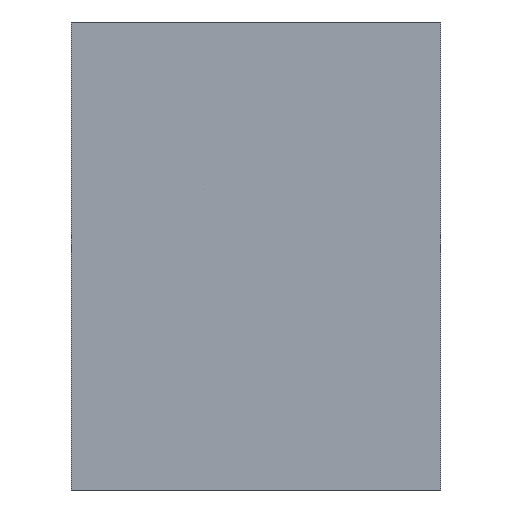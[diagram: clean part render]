
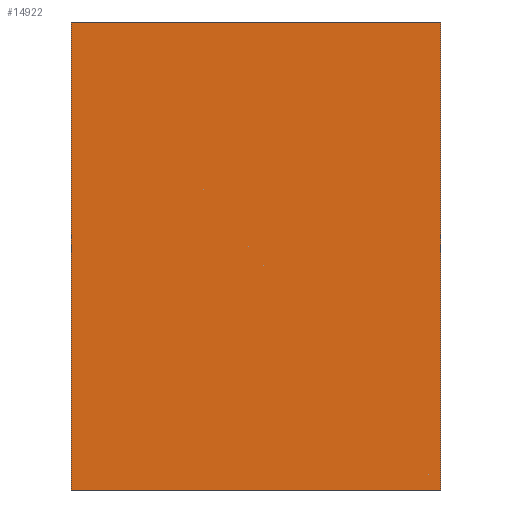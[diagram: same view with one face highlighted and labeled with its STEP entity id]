
A CAD part, front view. The second image highlights one B-rep face of the part: STEP entity #14922.
In plain terms, the highlighted planar face has unit normal (0, -1, 0).
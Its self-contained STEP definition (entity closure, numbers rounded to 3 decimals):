
#33 = PLANE('',#34);
#34 = AXIS2_PLACEMENT_3D('',#35,#36,#37);
#35 = CARTESIAN_POINT('',(37.5,12.089,0.));
#36 = DIRECTION('',(0.,0.,1.));
#37 = DIRECTION('',(1.,0.,0.));
#172 = VERTEX_POINT('',#173);
#173 = CARTESIAN_POINT('',(0.,0.,0.));
#187 = PLANE('',#188);
#188 = AXIS2_PLACEMENT_3D('',#189,#190,#191);
#189 = CARTESIAN_POINT('',(0.,25.,0.));
#190 = DIRECTION('',(1.,0.,0.));
#191 = DIRECTION('',(0.,-1.,0.));
#199 = EDGE_CURVE('',#172,#200,#202,.T.);
#200 = VERTEX_POINT('',#201);
#201 = CARTESIAN_POINT('',(75.,0.,0.));
#202 = SURFACE_CURVE('',#203,(#207,#214),.PCURVE_S1.);
#203 = LINE('',#204,#205);
#204 = CARTESIAN_POINT('',(0.,0.,0.));
#205 = VECTOR('',#206,1.);
#206 = DIRECTION('',(1.,0.,0.));
#207 = PCURVE('',#33,#208);
#208 = DEFINITIONAL_REPRESENTATION('',(#209),#213);
#209 = LINE('',#210,#211);
#210 = CARTESIAN_POINT('',(-37.5,-12.089));
#211 = VECTOR('',#212,1.);
#212 = DIRECTION('',(1.,0.));
#213 = ( GEOMETRIC_REPRESENTATION_CONTEXT(2) 
PARAMETRIC_REPRESENTATION_CONTEXT() REPRESENTATION_CONTEXT('2D SPACE',''
  ) );
#214 = PCURVE('',#215,#220);
#215 = PLANE('',#216);
#216 = AXIS2_PLACEMENT_3D('',#217,#218,#219);
#217 = CARTESIAN_POINT('',(0.,0.,0.));
#218 = DIRECTION('',(0.,1.,0.));
#219 = DIRECTION('',(1.,0.,0.));
#220 = DEFINITIONAL_REPRESENTATION('',(#221),#225);
#221 = LINE('',#222,#223);
#222 = CARTESIAN_POINT('',(0.,0.));
#223 = VECTOR('',#224,1.);
#224 = DIRECTION('',(1.,0.));
#225 = ( GEOMETRIC_REPRESENTATION_CONTEXT(2) 
PARAMETRIC_REPRESENTATION_CONTEXT() REPRESENTATION_CONTEXT('2D SPACE',''
  ) );
#243 = PLANE('',#244);
#244 = AXIS2_PLACEMENT_3D('',#245,#246,#247);
#245 = CARTESIAN_POINT('',(75.,0.,0.));
#246 = DIRECTION('',(-1.,0.,0.));
#247 = DIRECTION('',(0.,1.,0.));
#469 = PLANE('',#470);
#470 = AXIS2_PLACEMENT_3D('',#471,#472,#473);
#471 = CARTESIAN_POINT('',(37.5,12.089,95.));
#472 = DIRECTION('',(0.,0.,1.));
#473 = DIRECTION('',(1.,0.,0.));
#14825 = VERTEX_POINT('',#14826);
#14826 = CARTESIAN_POINT('',(0.,0.,95.));
#14847 = EDGE_CURVE('',#172,#14825,#14848,.T.);
#14848 = SURFACE_CURVE('',#14849,(#14853,#14860),.PCURVE_S1.);
#14849 = LINE('',#14850,#14851);
#14850 = CARTESIAN_POINT('',(0.,0.,0.));
#14851 = VECTOR('',#14852,1.);
#14852 = DIRECTION('',(0.,0.,1.));
#14853 = PCURVE('',#187,#14854);
#14854 = DEFINITIONAL_REPRESENTATION('',(#14855),#14859);
#14855 = LINE('',#14856,#14857);
#14856 = CARTESIAN_POINT('',(25.,0.));
#14857 = VECTOR('',#14858,1.);
#14858 = DIRECTION('',(0.,-1.));
#14859 = ( GEOMETRIC_REPRESENTATION_CONTEXT(2) 
PARAMETRIC_REPRESENTATION_CONTEXT() REPRESENTATION_CONTEXT('2D SPACE',''
  ) );
#14860 = PCURVE('',#215,#14861);
#14861 = DEFINITIONAL_REPRESENTATION('',(#14862),#14866);
#14862 = LINE('',#14863,#14864);
#14863 = CARTESIAN_POINT('',(0.,0.));
#14864 = VECTOR('',#14865,1.);
#14865 = DIRECTION('',(0.,-1.));
#14866 = ( GEOMETRIC_REPRESENTATION_CONTEXT(2) 
PARAMETRIC_REPRESENTATION_CONTEXT() REPRESENTATION_CONTEXT('2D SPACE',''
  ) );
#14922 = ADVANCED_FACE('',(#14923),#215,.F.);
#14923 = FACE_BOUND('',#14924,.F.);
#14924 = EDGE_LOOP('',(#14925,#14926,#14949,#14970));
#14925 = ORIENTED_EDGE('',*,*,#14847,.T.);
#14926 = ORIENTED_EDGE('',*,*,#14927,.T.);
#14927 = EDGE_CURVE('',#14825,#14928,#14930,.T.);
#14928 = VERTEX_POINT('',#14929);
#14929 = CARTESIAN_POINT('',(75.,0.,95.));
#14930 = SURFACE_CURVE('',#14931,(#14935,#14942),.PCURVE_S1.);
#14931 = LINE('',#14932,#14933);
#14932 = CARTESIAN_POINT('',(0.,0.,95.));
#14933 = VECTOR('',#14934,1.);
#14934 = DIRECTION('',(1.,0.,0.));
#14935 = PCURVE('',#215,#14936);
#14936 = DEFINITIONAL_REPRESENTATION('',(#14937),#14941);
#14937 = LINE('',#14938,#14939);
#14938 = CARTESIAN_POINT('',(0.,-95.));
#14939 = VECTOR('',#14940,1.);
#14940 = DIRECTION('',(1.,0.));
#14941 = ( GEOMETRIC_REPRESENTATION_CONTEXT(2) 
PARAMETRIC_REPRESENTATION_CONTEXT() REPRESENTATION_CONTEXT('2D SPACE',''
  ) );
#14942 = PCURVE('',#469,#14943);
#14943 = DEFINITIONAL_REPRESENTATION('',(#14944),#14948);
#14944 = LINE('',#14945,#14946);
#14945 = CARTESIAN_POINT('',(-37.5,-12.089));
#14946 = VECTOR('',#14947,1.);
#14947 = DIRECTION('',(1.,0.));
#14948 = ( GEOMETRIC_REPRESENTATION_CONTEXT(2) 
PARAMETRIC_REPRESENTATION_CONTEXT() REPRESENTATION_CONTEXT('2D SPACE',''
  ) );
#14949 = ORIENTED_EDGE('',*,*,#14950,.F.);
#14950 = EDGE_CURVE('',#200,#14928,#14951,.T.);
#14951 = SURFACE_CURVE('',#14952,(#14956,#14963),.PCURVE_S1.);
#14952 = LINE('',#14953,#14954);
#14953 = CARTESIAN_POINT('',(75.,0.,0.));
#14954 = VECTOR('',#14955,1.);
#14955 = DIRECTION('',(0.,0.,1.));
#14956 = PCURVE('',#215,#14957);
#14957 = DEFINITIONAL_REPRESENTATION('',(#14958),#14962);
#14958 = LINE('',#14959,#14960);
#14959 = CARTESIAN_POINT('',(75.,0.));
#14960 = VECTOR('',#14961,1.);
#14961 = DIRECTION('',(0.,-1.));
#14962 = ( GEOMETRIC_REPRESENTATION_CONTEXT(2) 
PARAMETRIC_REPRESENTATION_CONTEXT() REPRESENTATION_CONTEXT('2D SPACE',''
  ) );
#14963 = PCURVE('',#243,#14964);
#14964 = DEFINITIONAL_REPRESENTATION('',(#14965),#14969);
#14965 = LINE('',#14966,#14967);
#14966 = CARTESIAN_POINT('',(0.,0.));
#14967 = VECTOR('',#14968,1.);
#14968 = DIRECTION('',(0.,-1.));
#14969 = ( GEOMETRIC_REPRESENTATION_CONTEXT(2) 
PARAMETRIC_REPRESENTATION_CONTEXT() REPRESENTATION_CONTEXT('2D SPACE',''
  ) );
#14970 = ORIENTED_EDGE('',*,*,#199,.F.);
